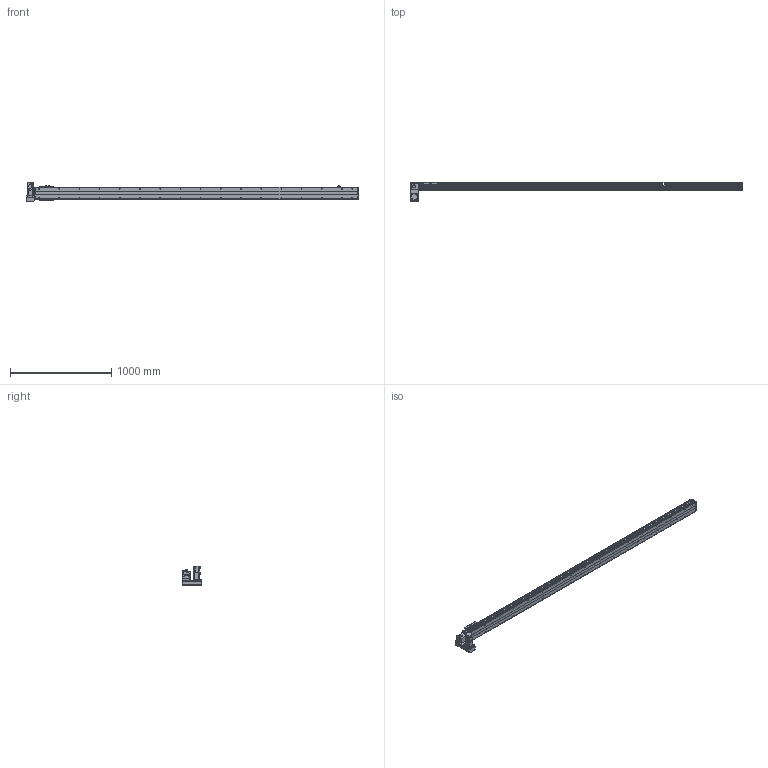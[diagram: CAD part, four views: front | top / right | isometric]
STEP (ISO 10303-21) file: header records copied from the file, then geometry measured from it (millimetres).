
FILE_DESCRIPTION( ( 'STEP AP214' ), '1' );
FILE_NAME( 'x:/temp/worker_6/temp/exporttempdir_3468_27_nfqjE/format_0/PBS120-P40-S2900-LD-T40-C1-N(0).stp', '2022-06-08T08:14:54', ( 'License CC BY-ND 4.0' ), ( 'CADENAS' ), ' ', 'PARTsolutions', ' ' );
FILE_SCHEMA( ( 'AUTOMOTIVE_DESIGN { 1 0 10303 214 1 1 1 1 }' ) );
Length unit declared in the file: millimetre
Products named in the file (7): PBS120-P40-S2900-LD-T40-C1-N(0); _PBS120-S2900()_body; _PBS120T-LD_motors; _T40-p1; _PBS120_sliser; _PBS120_plant; _PBS120_sensor
Assembly tree (8 placements, depth 2):
  PBS120-P40-S2900-LD-T40-C1-N(0)
    _PBS120-S2900()_body
    _PBS120T-LD_motors
    _T40-p1
    _PBS120_sliser
    _PBS120_plant
    _PBS120_sensor  x3
Bounding box: 3286 x 196 x 189.7 mm (x, y, z)
Volume: 12145598.4 mm3; surface area: 2528331 mm2
Topology: 8 solids, 8 shells, 882 faces, 2246 edges, 1441 vertices
Faces by surface type: plane 567, cylinder 247, cone 66, torus 2
Full cylindrical faces by diameter (mm): 2.459 x6, 3.242 x4, 4 x2, 4.134 x4, 4.5 x10, 4.917 x38, 5.5 x11, 6 x2, 6.6 x1, 7 x2, 8.5 x4, 9 x4, 12 x1, 14 x1, 30 x2, 40 x1, 50 x2
Entity records: 28836 total; most frequent: DIRECTION 3956, CARTESIAN_POINT 3839, ORIENTED_EDGE 3610, EDGE_CURVE 1805, AXIS2_PLACEMENT_3D 1364, VERTEX_POINT 1247, LINE 1228, VECTOR 1228
